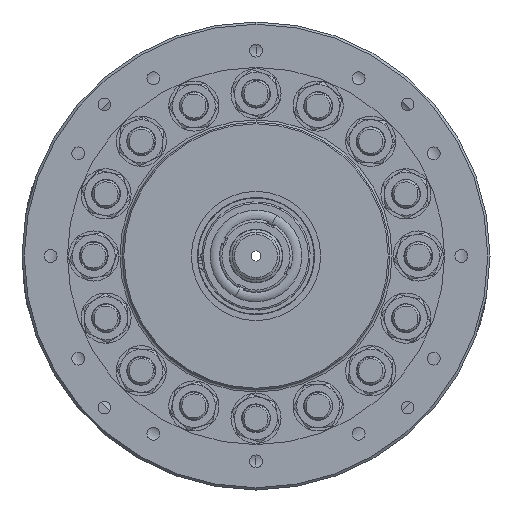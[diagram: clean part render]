
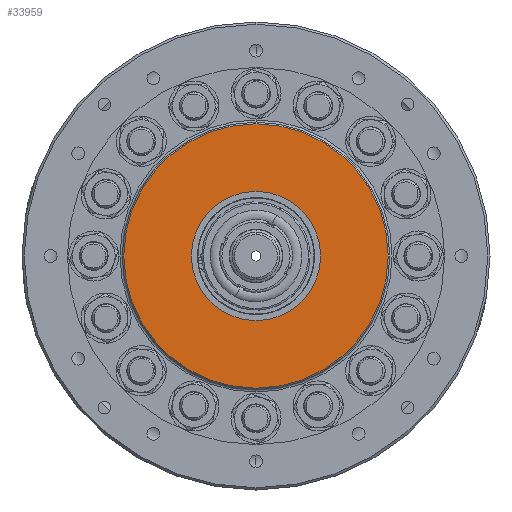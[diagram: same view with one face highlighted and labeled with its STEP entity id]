
A CAD part, left-side view. The second image highlights one B-rep face of the part: STEP entity #33959.
In plain terms, the highlighted planar face has unit normal (-1, 0, 0).
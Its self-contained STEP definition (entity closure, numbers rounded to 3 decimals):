
#772 = CIRCLE ( 'NONE', #64737, 87.884 ) ;
#3614 = ORIENTED_EDGE ( 'NONE', *, *, #35588, .T. ) ;
#3749 = AXIS2_PLACEMENT_3D ( 'NONE', #9603, #42369, #70594 ) ;
#5324 = CARTESIAN_POINT ( 'NONE',  ( 0., 0., 0. ) ) ;
#6917 = CARTESIAN_POINT ( 'NONE',  ( 0., 0., 0. ) ) ;
#7292 = CARTESIAN_POINT ( 'NONE',  ( 0., 0., -42.926 ) ) ;
#8713 = PLANE ( 'NONE',  #3749 ) ;
#9196 = DIRECTION ( 'NONE',  ( 0., 0., 1. ) ) ;
#9603 = CARTESIAN_POINT ( 'NONE',  ( 0., 42.926, 0. ) ) ;
#13000 = DIRECTION ( 'NONE',  ( -1., 0., 0. ) ) ;
#14343 = DIRECTION ( 'NONE',  ( 0., 0., 1. ) ) ;
#15266 = FACE_BOUND ( 'NONE', #84108, .T. ) ;
#17913 = VERTEX_POINT ( 'NONE', #7292 ) ;
#18299 = EDGE_CURVE ( 'NONE', #17913, #53911, #68840, .T. ) ;
#18369 = DIRECTION ( 'NONE',  ( -1., 0., 0. ) ) ;
#19628 = CARTESIAN_POINT ( 'NONE',  ( 0., 0., 42.926 ) ) ;
#22812 = AXIS2_PLACEMENT_3D ( 'NONE', #29260, #76241, #9196 ) ;
#29260 = CARTESIAN_POINT ( 'NONE',  ( 0., 0., 0. ) ) ;
#31205 = CIRCLE ( 'NONE', #79862, 42.926 ) ;
#33902 = AXIS2_PLACEMENT_3D ( 'NONE', #5324, #18369, #50669 ) ;
#33959 = ADVANCED_FACE ( 'NONE', ( #15266, #67642 ), #8713, .F. ) ;
#35588 = EDGE_CURVE ( 'NONE', #77238, #67368, #772, .T. ) ;
#42369 = DIRECTION ( 'NONE',  ( 1., 0., 0. ) ) ;
#47416 = ORIENTED_EDGE ( 'NONE', *, *, #57320, .T. ) ;
#50669 = DIRECTION ( 'NONE',  ( 0., 0., 1. ) ) ;
#53426 = ORIENTED_EDGE ( 'NONE', *, *, #18299, .F. ) ;
#53911 = VERTEX_POINT ( 'NONE', #19628 ) ;
#54447 = CARTESIAN_POINT ( 'NONE',  ( 0., 0., 87.884 ) ) ;
#57320 = EDGE_CURVE ( 'NONE', #67368, #77238, #68678, .T. ) ;
#59212 = DIRECTION ( 'NONE',  ( 0., 0., 1. ) ) ;
#62675 = CARTESIAN_POINT ( 'NONE',  ( 0., 0., -87.884 ) ) ;
#64737 = AXIS2_PLACEMENT_3D ( 'NONE', #6917, #13000, #59212 ) ;
#67121 = CARTESIAN_POINT ( 'NONE',  ( 0., 0., 0. ) ) ;
#67368 = VERTEX_POINT ( 'NONE', #62675 ) ;
#67642 = FACE_OUTER_BOUND ( 'NONE', #75747, .T. ) ;
#68678 = CIRCLE ( 'NONE', #33902, 87.884 ) ;
#68840 = CIRCLE ( 'NONE', #22812, 42.926 ) ;
#70594 = DIRECTION ( 'NONE',  ( 0., 0., -1. ) ) ;
#73294 = ORIENTED_EDGE ( 'NONE', *, *, #77280, .F. ) ;
#75747 = EDGE_LOOP ( 'NONE', ( #47416, #3614 ) ) ;
#76241 = DIRECTION ( 'NONE',  ( -1., 0., 0. ) ) ;
#77238 = VERTEX_POINT ( 'NONE', #54447 ) ;
#77280 = EDGE_CURVE ( 'NONE', #53911, #17913, #31205, .T. ) ;
#79862 = AXIS2_PLACEMENT_3D ( 'NONE', #67121, #81396, #14343 ) ;
#81396 = DIRECTION ( 'NONE',  ( -1., 0., 0. ) ) ;
#84108 = EDGE_LOOP ( 'NONE', ( #73294, #53426 ) ) ;
